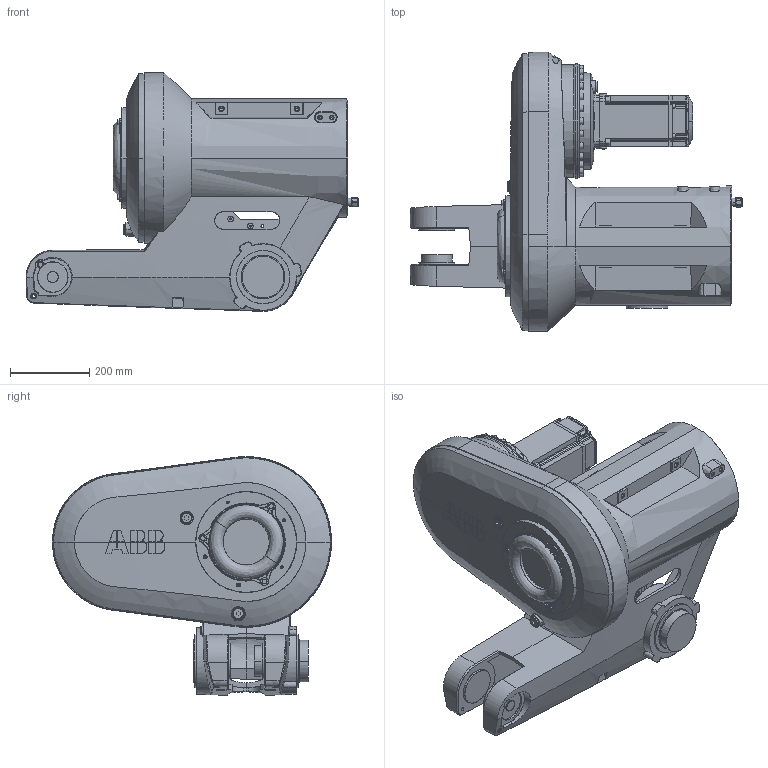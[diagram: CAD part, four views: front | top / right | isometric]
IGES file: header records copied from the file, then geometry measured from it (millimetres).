
Start section: SolidWorks IGES file using analytic representation for surfaces
Global section: file name: B:\DM\Robotics\SEROP_PROJ\Product Development\DevelopmentProjects\Manipulator_Modularity\04. Product Design\06. CAD\Amanda\7720 Lightweight models\IRB7720_530kg-310_OC_00_SW_J\IRB7720_All-310_OC_00_LINK03_CAD.IGS; native system: SolidWorks 2022; preprocessor: SolidWorks 2022; author: SEAMSTO1; date: 240119.094325; units: millimetre
Bounding box: 836.32 x 702.96 x 601.27 mm (x, y, z)
Surface area: 2454411.4 mm2 (no closed solid volume)
Topology: 0 solids, 0 shells, 1382 faces, 22225 edges, 22195 vertices
Faces by surface type: bspline 743, revolution 639
